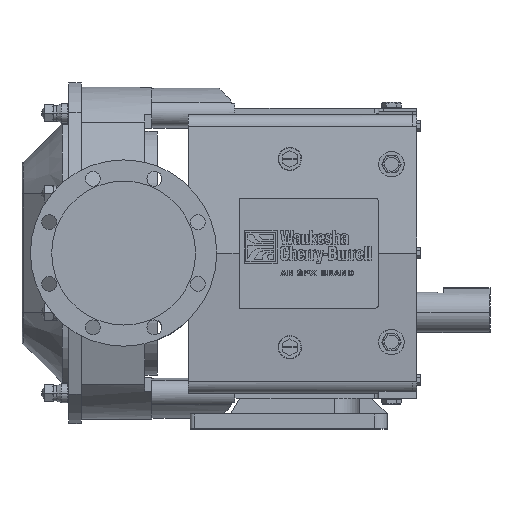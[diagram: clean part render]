
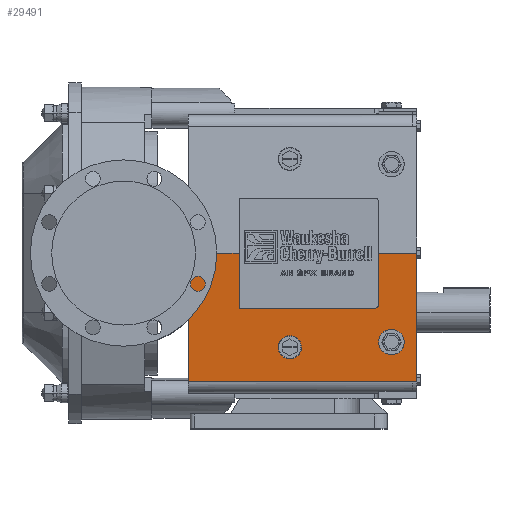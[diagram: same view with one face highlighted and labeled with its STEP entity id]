
A CAD part, top view. The second image highlights one B-rep face of the part: STEP entity #29491.
In plain terms, the highlighted planar face has unit normal (0, -0.087, 0.996).
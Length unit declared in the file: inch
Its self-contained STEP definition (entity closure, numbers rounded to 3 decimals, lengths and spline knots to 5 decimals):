
#11712 = CARTESIAN_POINT ( 'NONE',  ( 7.46, -5.56, 4.51356 ) ) ;
#11713 =( BOUNDED_CURVE ( )  B_SPLINE_CURVE ( 3, ( #11712, #11756, #11755, #11754 ),
 .UNSPECIFIED., .F., .T. ) 
 B_SPLINE_CURVE_WITH_KNOTS ( ( 4, 4 ),
 ( 1.5708, 4.71239 ),
 .UNSPECIFIED. ) 
 CURVE ( )  GEOMETRIC_REPRESENTATION_ITEM ( )  RATIONAL_B_SPLINE_CURVE ( ( 1., 0.333, 0.333, 1. ) ) 
 REPRESENTATION_ITEM ( '' )  );
#11716 = CARTESIAN_POINT ( 'NONE',  ( 13.154, -3.25, 4.71566 ) ) ;
#11717 = DIRECTION ( 'NONE',  ( -1., 0., 0. ) ) ;
#11718 = VECTOR ( 'NONE', #11717, 39.37008 ) ;
#11719 = CARTESIAN_POINT ( 'NONE',  ( 13.404, -3.25, 4.71566 ) ) ;
#11720 = LINE ( 'NONE', #11719, #11718 ) ;
#11735 = CARTESIAN_POINT ( 'NONE',  ( 5.154, 0., 5. ) ) ;
#11743 = CARTESIAN_POINT ( 'NONE',  ( 13.4, -5.25, 4.54068 ) ) ;
#11744 = CARTESIAN_POINT ( 'NONE',  ( 13.4, -3.75, 4.67192 ) ) ;
#11745 = CARTESIAN_POINT ( 'NONE',  ( 14.9, -3.75, 4.67192 ) ) ;
#11746 = CARTESIAN_POINT ( 'NONE',  ( 14.9, -5.25, 4.54068 ) ) ;
#11747 =( BOUNDED_CURVE ( )  B_SPLINE_CURVE ( 3, ( #11746, #11745, #11744, #11743 ),
 .UNSPECIFIED., .F., .T. ) 
 B_SPLINE_CURVE_WITH_KNOTS ( ( 4, 4 ),
 ( 4.71239, 7.85398 ),
 .UNSPECIFIED. ) 
 CURVE ( )  GEOMETRIC_REPRESENTATION_ITEM ( )  RATIONAL_B_SPLINE_CURVE ( ( 1., 0.333, 0.333, 1. ) ) 
 REPRESENTATION_ITEM ( '' )  );
#11754 = CARTESIAN_POINT ( 'NONE',  ( 8.84, -5.56, 4.51356 ) ) ;
#11755 = CARTESIAN_POINT ( 'NONE',  ( 8.84, -6.94, 4.39283 ) ) ;
#11756 = CARTESIAN_POINT ( 'NONE',  ( 7.46, -6.94, 4.39283 ) ) ;
#11782 = DIRECTION ( 'NONE',  ( 0., -0.996, -0.087 ) ) ;
#11783 = VECTOR ( 'NONE', #11782, 39.37008 ) ;
#11784 = CARTESIAN_POINT ( 'NONE',  ( 13.404, -1712.79504, -144.85015 ) ) ;
#11785 = LINE ( 'NONE', #11784, #11783 ) ;
#11787 = CARTESIAN_POINT ( 'NONE',  ( 13.404, 0., 5. ) ) ;
#11815 = CARTESIAN_POINT ( 'NONE',  ( 13.154, -3.25, 4.71566 ) ) ;
#11816 = CARTESIAN_POINT ( 'NONE',  ( 13.30045, -3.25, 4.71566 ) ) ;
#11817 = CARTESIAN_POINT ( 'NONE',  ( 13.404, -3.14645, 4.72472 ) ) ;
#11818 = CARTESIAN_POINT ( 'NONE',  ( 13.404, -3., 4.73753 ) ) ;
#11819 =( BOUNDED_CURVE ( )  B_SPLINE_CURVE ( 3, ( #11818, #11817, #11816, #11815 ),
 .UNSPECIFIED., .F., .T. ) 
 B_SPLINE_CURVE_WITH_KNOTS ( ( 4, 4 ),
 ( 1.5708, 3.14159 ),
 .UNSPECIFIED. ) 
 CURVE ( )  GEOMETRIC_REPRESENTATION_ITEM ( )  RATIONAL_B_SPLINE_CURVE ( ( 1., 0.805, 0.805, 1. ) ) 
 REPRESENTATION_ITEM ( '' )  );
#11821 = CARTESIAN_POINT ( 'NONE',  ( 13.404, -3., 4.73753 ) ) ;
#11862 = CARTESIAN_POINT ( 'NONE',  ( 5.154, -3.25, 4.71566 ) ) ;
#11863 = DIRECTION ( 'NONE',  ( 0., 0.996, 0.087 ) ) ;
#11864 = VECTOR ( 'NONE', #11863, 39.37008 ) ;
#11865 = CARTESIAN_POINT ( 'NONE',  ( 5.154, -1712.79504, -144.85015 ) ) ;
#11866 = LINE ( 'NONE', #11865, #11864 ) ;
#22093 = EDGE_CURVE ( 'NONE', #22336, #22332, #23510, .T. ) ;
#22230 = VERTEX_POINT ( 'NONE', #24000 ) ;
#22304 = EDGE_CURVE ( 'NONE', #22327, #22230, #24205, .T. ) ;
#22327 = VERTEX_POINT ( 'NONE', #24374 ) ;
#22332 = VERTEX_POINT ( 'NONE', #24365 ) ;
#22336 = VERTEX_POINT ( 'NONE', #24355 ) ;
#23510 =( BOUNDED_CURVE ( )  B_SPLINE_CURVE ( 3, ( #23634, #23632, #23630, #23628 ),
 .UNSPECIFIED., .F., .F. ) 
 B_SPLINE_CURVE_WITH_KNOTS ( ( 4, 4 ),
 ( 1.5708, 4.71239 ),
 .UNSPECIFIED. ) 
 CURVE ( )  GEOMETRIC_REPRESENTATION_ITEM ( )  RATIONAL_B_SPLINE_CURVE ( ( 1., 0.333, 0.333, 1. ) ) 
 REPRESENTATION_ITEM ( '' )  );
#23628 = CARTESIAN_POINT ( 'NONE',  ( 14.9, -5.25, 4.54068 ) ) ;
#23630 = CARTESIAN_POINT ( 'NONE',  ( 14.9, -6.75, 4.40945 ) ) ;
#23632 = CARTESIAN_POINT ( 'NONE',  ( 13.4, -6.75, 4.40945 ) ) ;
#23634 = CARTESIAN_POINT ( 'NONE',  ( 13.4, -5.25, 4.54068 ) ) ;
#24000 = CARTESIAN_POINT ( 'NONE',  ( 7.46, -5.56, 4.51356 ) ) ;
#24205 =( BOUNDED_CURVE ( )  B_SPLINE_CURVE ( 3, ( #24328, #24326, #24324, #24322 ),
 .UNSPECIFIED., .F., .F. ) 
 B_SPLINE_CURVE_WITH_KNOTS ( ( 4, 4 ),
 ( 4.71239, 7.85398 ),
 .UNSPECIFIED. ) 
 CURVE ( )  GEOMETRIC_REPRESENTATION_ITEM ( )  RATIONAL_B_SPLINE_CURVE ( ( 1., 0.333, 0.333, 1. ) ) 
 REPRESENTATION_ITEM ( '' )  );
#24322 = CARTESIAN_POINT ( 'NONE',  ( 7.46, -5.56, 4.51356 ) ) ;
#24324 = CARTESIAN_POINT ( 'NONE',  ( 7.46, -4.18, 4.6343 ) ) ;
#24326 = CARTESIAN_POINT ( 'NONE',  ( 8.84, -4.18, 4.6343 ) ) ;
#24328 = CARTESIAN_POINT ( 'NONE',  ( 8.84, -5.56, 4.51356 ) ) ;
#24355 = CARTESIAN_POINT ( 'NONE',  ( 13.4, -5.25, 4.54068 ) ) ;
#24365 = CARTESIAN_POINT ( 'NONE',  ( 14.9, -5.25, 4.54068 ) ) ;
#24374 = CARTESIAN_POINT ( 'NONE',  ( 8.84, -5.56, 4.51356 ) ) ;
#29472 = ORIENTED_EDGE ( 'NONE', *, *, #29474, .T. ) ;
#29474 = EDGE_CURVE ( 'NONE', #29626, #29533, #37992, .T. ) ;
#29476 = ORIENTED_EDGE ( 'NONE', *, *, #29532, .T. ) ;
#29477 = ORIENTED_EDGE ( 'NONE', *, *, #29478, .F. ) ;
#29478 = EDGE_CURVE ( 'NONE', #29500, #29529, #37988, .T. ) ;
#29479 = EDGE_LOOP ( 'NONE', ( #29482, #29484 ) ) ;
#29482 = ORIENTED_EDGE ( 'NONE', *, *, #22093, .F. ) ;
#29484 = ORIENTED_EDGE ( 'NONE', *, *, #45405, .F. ) ;
#29487 = EDGE_LOOP ( 'NONE', ( #29596, #29597 ) ) ;
#29491 = ADVANCED_FACE ( 'NONE', ( #37980, #37984, #38047 ), #37982, .F. ) ;
#29494 = EDGE_LOOP ( 'NONE', ( #29496, #29501, #29502, #29503, #29504, #29508, #29624, #29472, #29476, #29477 ) ) ;
#29496 = ORIENTED_EDGE ( 'NONE', *, *, #29498, .T. ) ;
#29498 = EDGE_CURVE ( 'NONE', #29500, #45443, #38036, .T. ) ;
#29500 = VERTEX_POINT ( 'NONE', #38029 ) ;
#29501 = ORIENTED_EDGE ( 'NONE', *, *, #45448, .T. ) ;
#29502 = ORIENTED_EDGE ( 'NONE', *, *, #45459, .T. ) ;
#29503 = ORIENTED_EDGE ( 'NONE', *, *, #45397, .T. ) ;
#29504 = ORIENTED_EDGE ( 'NONE', *, *, #45464, .T. ) ;
#29508 = ORIENTED_EDGE ( 'NONE', *, *, #29623, .T. ) ;
#29510 = VERTEX_POINT ( 'NONE', #38027 ) ;
#29529 = VERTEX_POINT ( 'NONE', #38065 ) ;
#29532 = EDGE_CURVE ( 'NONE', #29533, #29529, #38064, .T. ) ;
#29533 = VERTEX_POINT ( 'NONE', #38060 ) ;
#29596 = ORIENTED_EDGE ( 'NONE', *, *, #45400, .F. ) ;
#29597 = ORIENTED_EDGE ( 'NONE', *, *, #22304, .F. ) ;
#29623 = EDGE_CURVE ( 'NONE', #45387, #29510, #38172, .T. ) ;
#29624 = ORIENTED_EDGE ( 'NONE', *, *, #29625, .T. ) ;
#29625 = EDGE_CURVE ( 'NONE', #29510, #29626, #38168, .T. ) ;
#29626 = VERTEX_POINT ( 'NONE', #38164 ) ;
#37980 = FACE_OUTER_BOUND ( 'NONE', #29494, .T. ) ;
#37982 = PLANE ( 'NONE',  #38046 ) ;
#37984 = FACE_BOUND ( 'NONE', #29479, .T. ) ;
#37985 = DIRECTION ( 'NONE',  ( 0., -0.996, -0.087 ) ) ;
#37986 = VECTOR ( 'NONE', #37985, 39.37008 ) ;
#37987 = CARTESIAN_POINT ( 'NONE',  ( 15.65, 0., 5. ) ) ;
#37988 = LINE ( 'NONE', #37987, #37986 ) ;
#37989 = DIRECTION ( 'NONE',  ( 1., 0., 0. ) ) ;
#37990 = VECTOR ( 'NONE', #37989, 39.37008 ) ;
#37991 = CARTESIAN_POINT ( 'NONE',  ( 15.4, -7.57851, 4.33697 ) ) ;
#37992 = LINE ( 'NONE', #37991, #37990 ) ;
#38027 = CARTESIAN_POINT ( 'NONE',  ( 2.154, 0., 5. ) ) ;
#38029 = CARTESIAN_POINT ( 'NONE',  ( 15.65, 0., 5. ) ) ;
#38030 = DIRECTION ( 'NONE',  ( -1., 0., 0. ) ) ;
#38031 = VECTOR ( 'NONE', #38030, 39.37008 ) ;
#38032 = CARTESIAN_POINT ( 'NONE',  ( 15.65, 0., 5. ) ) ;
#38033 = DIRECTION ( 'NONE',  ( 0., 0.996, 0.087 ) ) ;
#38034 = DIRECTION ( 'NONE',  ( 0., 0.087, -0.996 ) ) ;
#38035 = CARTESIAN_POINT ( 'NONE',  ( 15.65, 0., 5. ) ) ;
#38036 = LINE ( 'NONE', #38032, #38031 ) ;
#38046 = AXIS2_PLACEMENT_3D ( 'NONE', #38035, #38034, #38033 ) ;
#38047 = FACE_BOUND ( 'NONE', #29487, .T. ) ;
#38060 = CARTESIAN_POINT ( 'NONE',  ( 15.4, -7.57847, 4.33697 ) ) ;
#38061 = DIRECTION ( 'NONE',  ( 1., 0., 0. ) ) ;
#38062 = VECTOR ( 'NONE', #38061, 39.37008 ) ;
#38063 = CARTESIAN_POINT ( 'NONE',  ( 15.65, -7.57847, 4.33697 ) ) ;
#38064 = LINE ( 'NONE', #38063, #38062 ) ;
#38065 = CARTESIAN_POINT ( 'NONE',  ( 15.65, -7.57847, 4.33697 ) ) ;
#38164 = CARTESIAN_POINT ( 'NONE',  ( 2.154, -7.57851, 4.33697 ) ) ;
#38165 = DIRECTION ( 'NONE',  ( 0., -0.996, -0.087 ) ) ;
#38166 = VECTOR ( 'NONE', #38165, 39.37008 ) ;
#38167 = CARTESIAN_POINT ( 'NONE',  ( 2.154, -9., 4.2126 ) ) ;
#38168 = LINE ( 'NONE', #38167, #38166 ) ;
#38169 = DIRECTION ( 'NONE',  ( -1., 0., 0. ) ) ;
#38170 = VECTOR ( 'NONE', #38169, 39.37008 ) ;
#38171 = CARTESIAN_POINT ( 'NONE',  ( 15.4, 0., 5. ) ) ;
#38172 = LINE ( 'NONE', #38171, #38170 ) ;
#45387 = VERTEX_POINT ( 'NONE', #11735 ) ;
#45397 = EDGE_CURVE ( 'NONE', #45398, #45465, #11720, .T. ) ;
#45398 = VERTEX_POINT ( 'NONE', #11716 ) ;
#45400 = EDGE_CURVE ( 'NONE', #22230, #22327, #11713, .T. ) ;
#45405 = EDGE_CURVE ( 'NONE', #22332, #22336, #11747, .T. ) ;
#45443 = VERTEX_POINT ( 'NONE', #11787 ) ;
#45448 = EDGE_CURVE ( 'NONE', #45443, #45460, #11785, .T. ) ;
#45459 = EDGE_CURVE ( 'NONE', #45460, #45398, #11819, .T. ) ;
#45460 = VERTEX_POINT ( 'NONE', #11821 ) ;
#45464 = EDGE_CURVE ( 'NONE', #45465, #45387, #11866, .T. ) ;
#45465 = VERTEX_POINT ( 'NONE', #11862 ) ;
